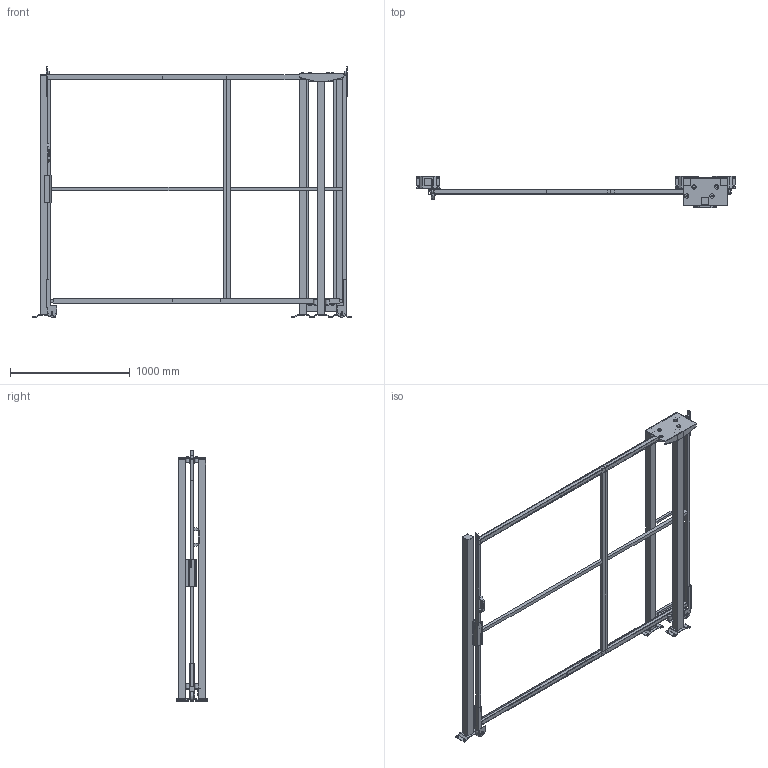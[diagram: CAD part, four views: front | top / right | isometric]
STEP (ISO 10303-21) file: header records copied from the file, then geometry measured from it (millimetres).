
FILE_DESCRIPTION(/* description */ (''),/* implementation_level */ '2;1');
FILE_NAME(/* name */ 'C:\SafeGuarding\ELABORATI\KLADKA_2025-03-19-10-41-32.stp',/* time_stamp */ '2025-03-19T10:41:38+01:00',/* author */ ('admin'),/* organization */ (''),/* preprocessor_version */ 'ST-DEVELOPER v18.1',/* originating_system */ 'AutoCAD Mechanical',/* authorisation */ '');
FILE_SCHEMA (('AUTOMOTIVE_DESIGN { 1 0 10303 214 3 1 1 }'));
Length unit declared in the file: millimetre
Products named in the file (5): Product; R_VFPA.REPE30.10001900; R_VFPA.REPE30.15001900; R_VFPA.REPE20.02501900; P_VFMA.V260SDU.2020
Assembly tree (7 placements, depth 2):
  Product
    R_VFPA.REPE30.10001900
    R_VFPA.REPE30.15001900
    R_VFPA.REPE20.02501900
    P_VFMA.V260SDU.2020  x4
Bounding box: 2662.02 x 264.1 x 2090.02 mm (x, y, z)
Volume: 47470054.2 mm3; surface area: 6460003.9 mm2
Topology: 61 solids, 72 shells, 555 faces, 1718 edges, 1738 vertices
Faces by surface type: plane 503, cylinder 50, sphere 2
Full cylindrical faces by diameter (mm): 9 x4, 11 x16, 13 x4, 30 x6, 36 x8, 80 x2
Entity records: 16113 total; most frequent: CARTESIAN_POINT 3473, DIRECTION 2442, ORIENTED_EDGE 2202, LINE 1200, VECTOR 1200, EDGE_CURVE 1150, VERTEX_POINT 806, AXIS2_PLACEMENT_3D 621
